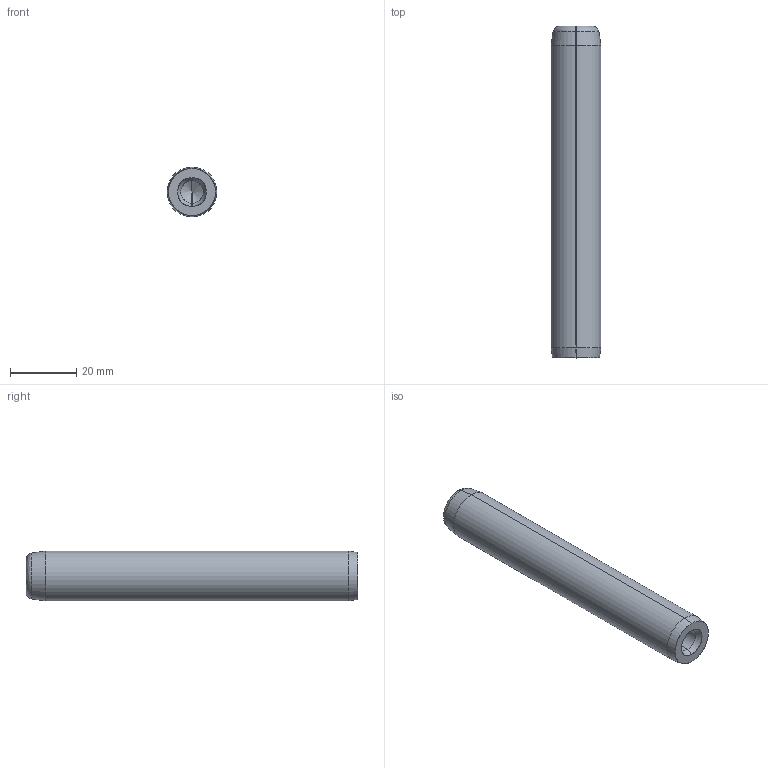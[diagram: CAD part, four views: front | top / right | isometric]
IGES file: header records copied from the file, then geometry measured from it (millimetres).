
Start section: SolidWorks IGES file using analytic representation for surfaces
Global section: file name: C:\Users\Dell\Desktop\deltakont\hatalýlar\D14\Ø15\D14_15100.IGS; native system: SolidWorks 2010; preprocessor: SolidWorks 2010; author: Dell; date: 111225.005613; units: metre
Bounding box: 15 x 100 x 15 mm (x, y, z)
Surface area: 6065.5 mm2 (no closed solid volume)
Topology: 0 solids, 0 shells, 22 faces, 208 edges, 204 vertices
Faces by surface type: revolution 18, bspline 4
